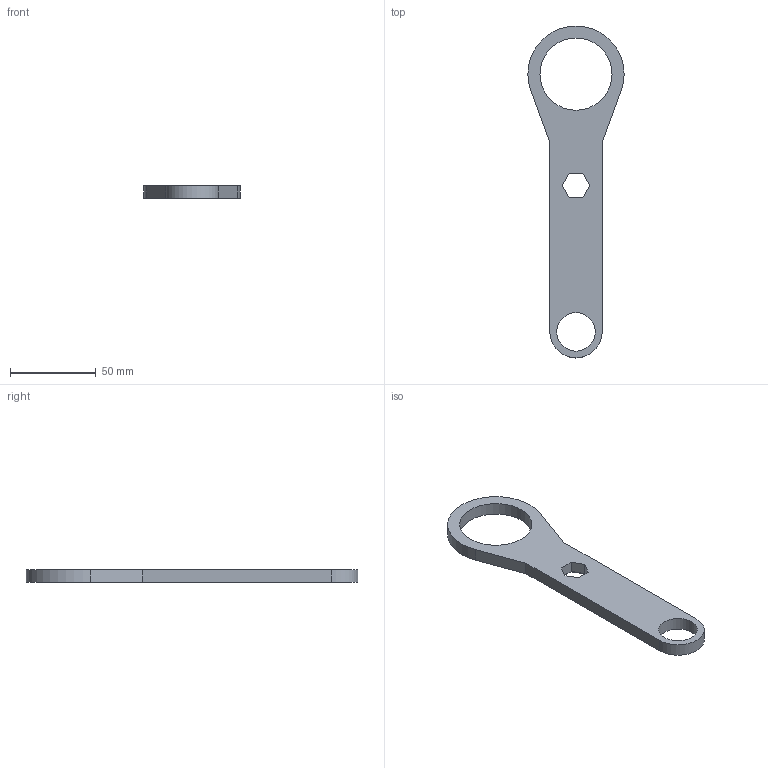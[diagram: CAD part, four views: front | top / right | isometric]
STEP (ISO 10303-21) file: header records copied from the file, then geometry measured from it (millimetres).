
FILE_DESCRIPTION(/* description */ ('STEP AP242 Edition 2','CAx-IF Rec.Pracs.---Representation and Presentation of Product Manufacturing Information (PMI)---4.0---2014-10-13','CAx-IF Rec.Pracs.---3D Tessellated Geometry---0.4---2014-09-14','2;1','CAx-IF Rec.Pracs.---User Defined Attributes---1.5---2016-08-15'),/* implementation_level */ '2;1');
FILE_NAME(/* name */ 'Draw Bot V4 - Updated Design - Left L2 Arm',/* time_stamp */ '2026-04-19T16:23:58Z',/* author */ (''),/* organization */ (''),/* preprocessor_version */ 'ST-DEVELOPER v20',/* originating_system */ 'ONSHAPE BY PTC INC, 1.213',/* authorisation */ ' ');
FILE_SCHEMA (('AP242_MANAGED_MODEL_BASED_3D_ENGINEERING_MIM_LF { 1 0 10303 442 3 1 4 }'));
Length unit declared in the file: millimetre
Products named in the file (1): Left L2 Arm
Bounding box: 56 x 193.2 x 7.5 mm (x, y, z)
Volume: 35807.5 mm3; surface area: 14709.9 mm2
Topology: 1 solids, 1 shells, 22 faces, 54 edges, 34 vertices
Faces by surface type: plane 18, cylinder 4
Full cylindrical faces by diameter (mm): 22.4 x1, 42 x1
Entity records: 662 total; most frequent: CARTESIAN_POINT 109, DIRECTION 106, ORIENTED_EDGE 104, EDGE_CURVE 52, LINE 44, VECTOR 44, VERTEX_POINT 34, AXIS2_PLACEMENT_3D 31
